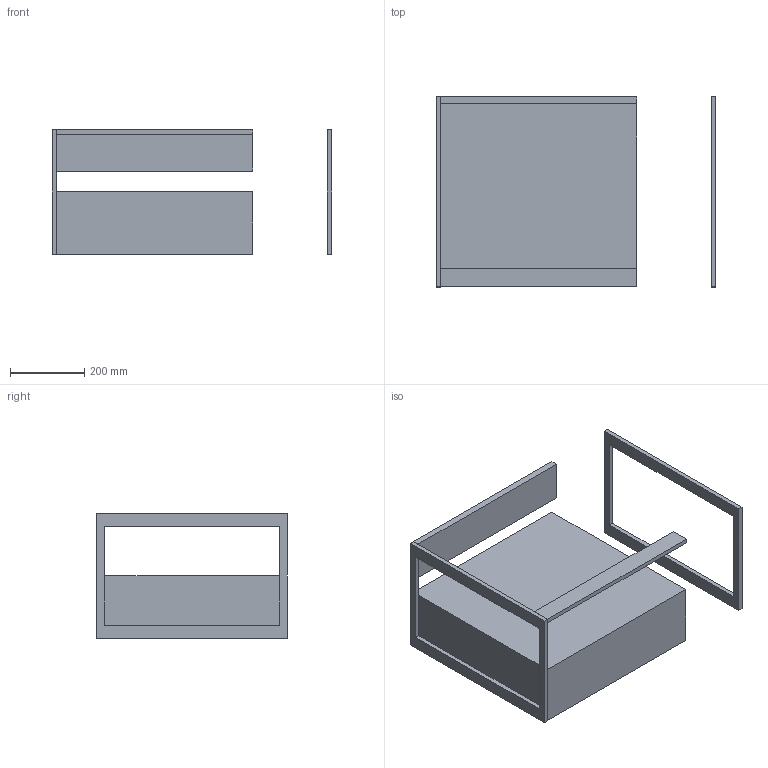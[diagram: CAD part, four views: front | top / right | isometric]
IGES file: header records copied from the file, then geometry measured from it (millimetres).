
Start section: Data from Parasolid IGES Translator 19.0.9, Copyright(c) 2006 Siemens PL M Software. All Rights Reserved.
Global section: file name: noorth-FJ-H 33,5 D 51,2 W 54_6699.igs; native system: By Siemens PLM Incorporated; preprocessor: XPlus GENERIC/IGES 19.0.9; author: Noname; organization: Noname; date: 20200507.120159; units: metre
Bounding box: 752 x 512 x 335 mm (x, y, z)
Volume: 15805537 mm3; surface area: 2242722.3 mm2
Topology: 10 solids, 10 shells, 70 faces, 150 edges, 100 vertices
Faces by surface type: plane 70
